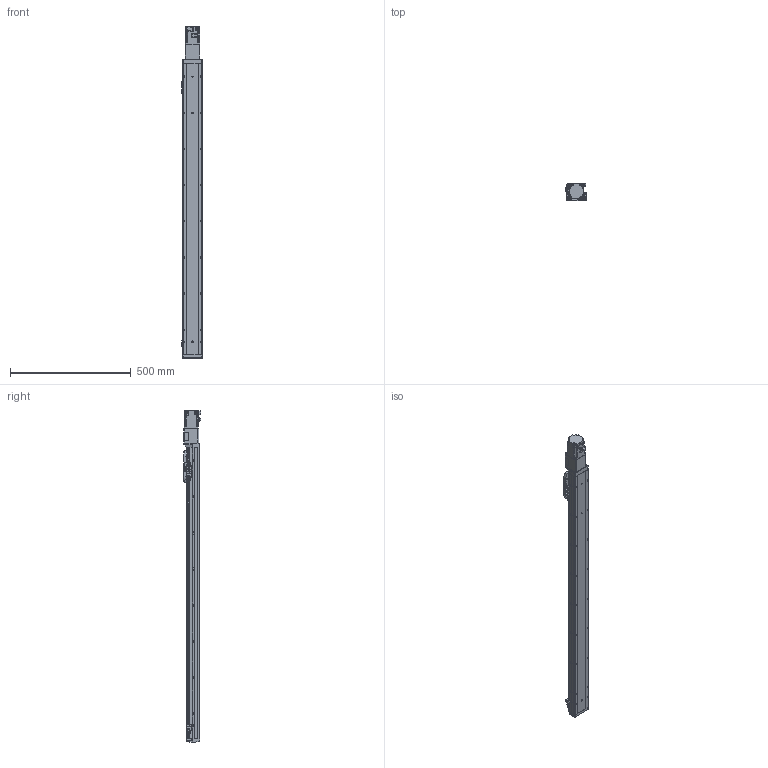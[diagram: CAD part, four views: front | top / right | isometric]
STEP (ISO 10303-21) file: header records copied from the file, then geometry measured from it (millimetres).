
FILE_DESCRIPTION (( 'STEP AP214' ), '1' );
FILE_NAME ('GSH8-1050-BC-M20-1.step', '2025-01-07T06:03:04', ( '' ), ( '' ), 'SwSTEP 2.0', 'SolidWorks 2012', '' );
FILE_SCHEMA (( 'AUTOMOTIVE_DESIGN' ));
Length unit declared in the file: millimetre
Products named in the file (4): GSH8-1050-BC-M20-1; GSH8-GY-004; HG-KR23_200W_Motor; GSH8-BC-011-1050-M20
Assembly tree (3 placements, depth 2):
  GSH8-1050-BC-M20-1
    GSH8-BC-011-1050-M20
    GSH8-GY-004
    HG-KR23_200W_Motor
Bounding box: 84 x 71.3 x 1377.6 mm (x, y, z)
Volume: 2590488.2 mm3; surface area: 722982.7 mm2
Topology: 3 solids, 7 shells, 1180 faces, 3143 edges, 2028 vertices
Faces by surface type: plane 670, cylinder 418, torus 38, cone 26, bspline 24, sphere 4
Entity records: 46657 total; most frequent: CARTESIAN_POINT 10903, DIRECTION 6371, ORIENTED_EDGE 6270, EDGE_CURVE 3135, AXIS2_PLACEMENT_3D 2144, VECTOR 2083, LINE 2083, VERTEX_POINT 2024
